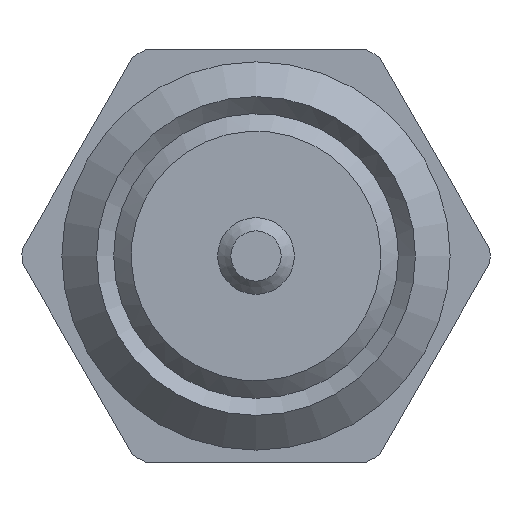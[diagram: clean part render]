
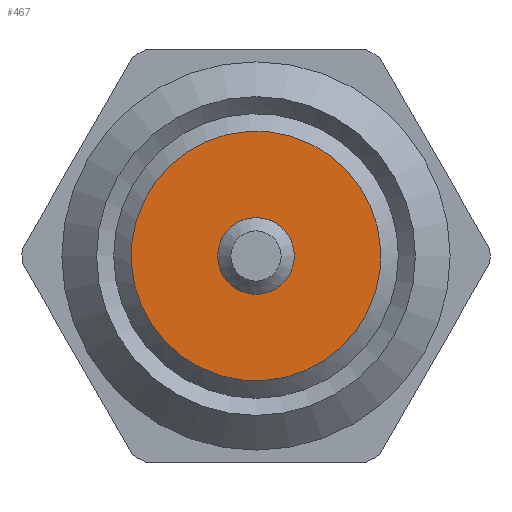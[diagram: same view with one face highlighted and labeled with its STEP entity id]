
A CAD part, left-side view. The second image highlights one B-rep face of the part: STEP entity #467.
In plain terms, the highlighted planar face has unit normal (-1, 0, 0).
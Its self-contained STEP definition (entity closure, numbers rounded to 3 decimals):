
#62=PLANE($,#512);
#86=FACE_BOUND($,#144,.T.);
#87=FACE_BOUND($,#145,.T.);
#144=EDGE_LOOP($,(#320));
#145=EDGE_LOOP($,(#321));
#183=CIRCLE($,#499,0.368);
#190=CIRCLE($,#513,1.2);
#213=VERTEX_POINT($,#715);
#220=VERTEX_POINT($,#736);
#255=EDGE_CURVE($,#213,#213,#183,.T.);
#262=EDGE_CURVE($,#220,#220,#190,.T.);
#320=ORIENTED_EDGE($,*,*,#255,.T.);
#321=ORIENTED_EDGE($,*,*,#262,.F.);
#467=ADVANCED_FACE($,(#86,#87),#62,.T.);
#499=AXIS2_PLACEMENT_3D($,#716,#568,#569);
#512=AXIS2_PLACEMENT_3D($,#735,#594,#595);
#513=AXIS2_PLACEMENT_3D($,#737,#596,#597);
#568=DIRECTION('center_axis',(1.,0.,0.));
#569=DIRECTION('ref_axis',(0.,1.,0.));
#594=DIRECTION('center_axis',(-1.,0.,0.));
#595=DIRECTION('ref_axis',(0.,-0.55,-0.835));
#596=DIRECTION('center_axis',(1.,0.,0.));
#597=DIRECTION('ref_axis',(0.,0.55,0.835));
#715=CARTESIAN_POINT('',(-16.511,-0.664,0.655));
#716=CARTESIAN_POINT('Origin',(-16.511,-0.295,0.655));
#735=CARTESIAN_POINT('Origin',(-16.511,-1.297,1.315));
#736=CARTESIAN_POINT('',(-16.511,-1.297,1.315));
#737=CARTESIAN_POINT('Origin',(-16.511,-0.295,0.655));
